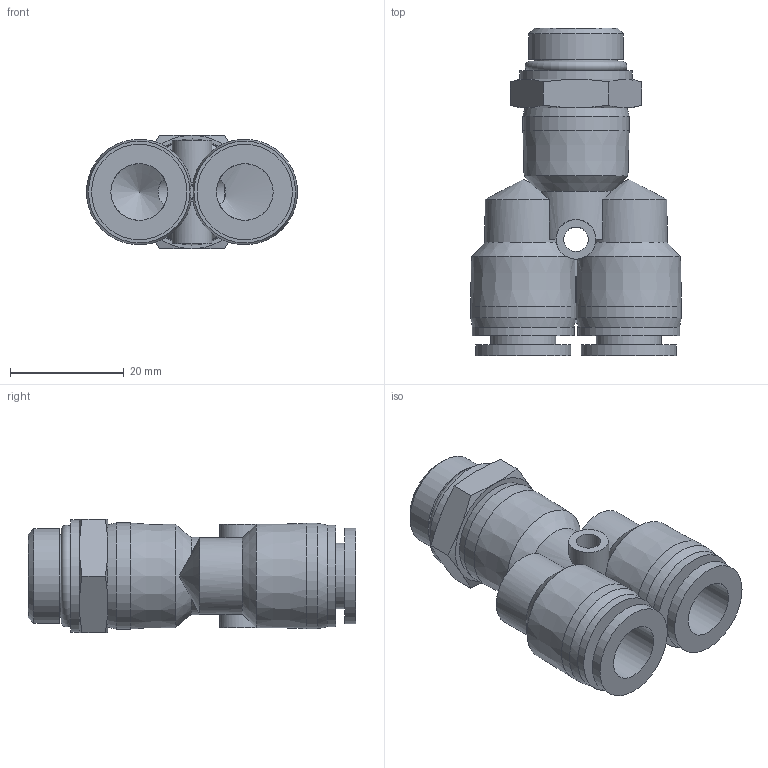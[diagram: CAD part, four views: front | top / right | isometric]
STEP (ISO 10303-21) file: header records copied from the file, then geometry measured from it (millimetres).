
FILE_DESCRIPTION(/* description */ (''),/* implementation_level */ '2;1');
FILE_NAME(/* name */ 'S:\_Tecnico\ArchivioUT\_Disegni3D ingombri\DISEGNI 3D per ingombri\RP\RP 74\RP743810.stp',/* time_stamp */ '2019-09-11T14:08:43+02:00',/* author */ ('ufficiotecnico3'),/* organization */ (''),/* preprocessor_version */ 'ST-DEVELOPER v18',/* originating_system */ 'Autodesk Inventor 2020',/* authorisation */ '');
FILE_SCHEMA (('AUTOMOTIVE_DESIGN { 1 0 10303 214 3 1 1 }'));
Length unit declared in the file: millimetre
Products named in the file (1): RP743810
Bounding box: 37.13 x 57.7 x 20 mm (x, y, z)
Volume: 13342 mm3; surface area: 9478.7 mm2
Topology: 1 solids, 2 shells, 81 faces, 235 edges, 159 vertices
Faces by surface type: cylinder 27, cone 26, plane 26, torus 2
Full cylindrical faces by diameter (mm): 4.3 x1, 6 x2, 7 x2, 8 x1, 10 x2, 11.5 x3, 14.6 x2, 16.662 x1, 16.8 x2, 17.9 x2, 18.7 x1, 19.8 x1
Entity records: 3071 total; most frequent: CARTESIAN_POINT 936, ORIENTED_EDGE 462, DIRECTION 430, EDGE_CURVE 231, AXIS2_PLACEMENT_3D 189, VERTEX_POINT 159, CIRCLE 107, EDGE_LOOP 94
